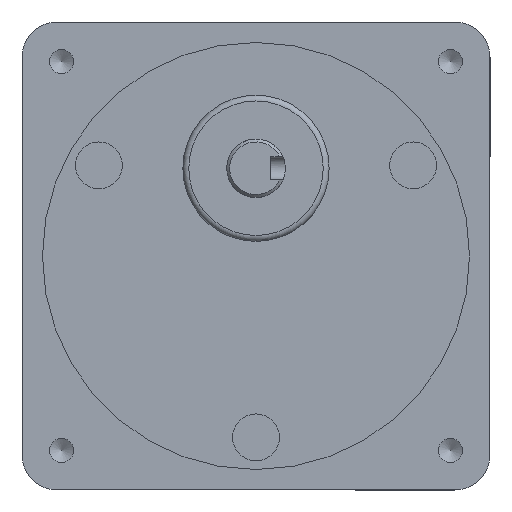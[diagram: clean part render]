
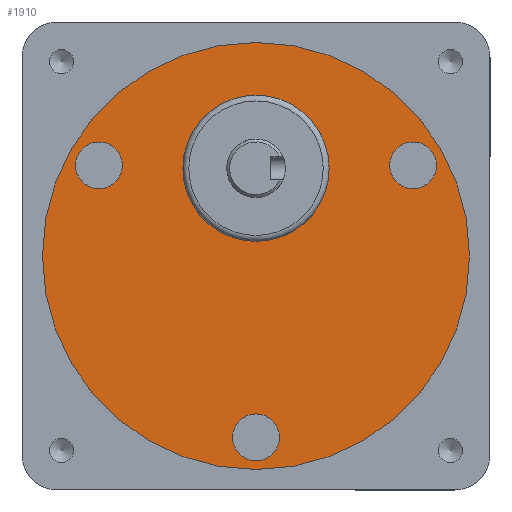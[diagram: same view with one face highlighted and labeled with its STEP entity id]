
A CAD part, front view. The second image highlights one B-rep face of the part: STEP entity #1910.
In plain terms, the highlighted planar face has unit normal (0, -1, 0).
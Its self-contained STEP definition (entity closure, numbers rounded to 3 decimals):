
#75=FACE_BOUND('',#377,.T.);
#76=FACE_BOUND('',#378,.T.);
#77=FACE_BOUND('',#379,.T.);
#132=PLANE('',#2211);
#236=FACE_OUTER_BOUND('',#376,.T.);
#376=EDGE_LOOP('',(#1624));
#377=EDGE_LOOP('',(#1625));
#378=EDGE_LOOP('',(#1626));
#379=EDGE_LOOP('',(#1627));
#779=CIRCLE('',#2197,4.);
#781=CIRCLE('',#2201,4.);
#783=CIRCLE('',#2205,4.);
#786=CIRCLE('',#2210,36.5);
#934=VERTEX_POINT('',#3315);
#936=VERTEX_POINT('',#3322);
#938=VERTEX_POINT('',#3329);
#941=VERTEX_POINT('',#3338);
#1169=EDGE_CURVE('',#934,#934,#779,.T.);
#1172=EDGE_CURVE('',#936,#936,#781,.T.);
#1175=EDGE_CURVE('',#938,#938,#783,.T.);
#1180=EDGE_CURVE('',#941,#941,#786,.T.);
#1624=ORIENTED_EDGE('',*,*,#1180,.T.);
#1625=ORIENTED_EDGE('',*,*,#1169,.T.);
#1626=ORIENTED_EDGE('',*,*,#1172,.T.);
#1627=ORIENTED_EDGE('',*,*,#1175,.T.);
#1910=ADVANCED_FACE('',(#236,#75,#76,#77),#132,.F.);
#2197=AXIS2_PLACEMENT_3D('',#3316,#2710,#2711);
#2201=AXIS2_PLACEMENT_3D('',#3323,#2719,#2720);
#2205=AXIS2_PLACEMENT_3D('',#3330,#2728,#2729);
#2210=AXIS2_PLACEMENT_3D('',#3340,#2740,#2741);
#2211=AXIS2_PLACEMENT_3D('',#3341,#2742,#2743);
#2710=DIRECTION('center_axis',(0.,1.,0.));
#2711=DIRECTION('ref_axis',(0.5,0.,-0.866));
#2719=DIRECTION('center_axis',(0.,1.,0.));
#2720=DIRECTION('ref_axis',(0.5,0.,0.866));
#2728=DIRECTION('center_axis',(0.,1.,0.));
#2729=DIRECTION('ref_axis',(-1.,0.,0.));
#2740=DIRECTION('center_axis',(0.,-1.,0.));
#2741=DIRECTION('ref_axis',(-1.,0.,0.));
#2742=DIRECTION('center_axis',(0.,1.,0.));
#2743=DIRECTION('ref_axis',(0.,0.,1.));
#3315=CARTESIAN_POINT('',(24.847,0.5,18.964));
#3316=CARTESIAN_POINT('Origin',(26.847,0.5,15.5));
#3322=CARTESIAN_POINT('',(-28.847,0.5,12.036));
#3323=CARTESIAN_POINT('Origin',(-26.847,0.5,15.5));
#3329=CARTESIAN_POINT('',(4.,0.5,-31.));
#3330=CARTESIAN_POINT('Origin',(0.,0.5,-31.));
#3338=CARTESIAN_POINT('',(36.5,0.5,0.));
#3340=CARTESIAN_POINT('Origin',(0.,0.5,0.));
#3341=CARTESIAN_POINT('Origin',(0.,0.5,0.));
